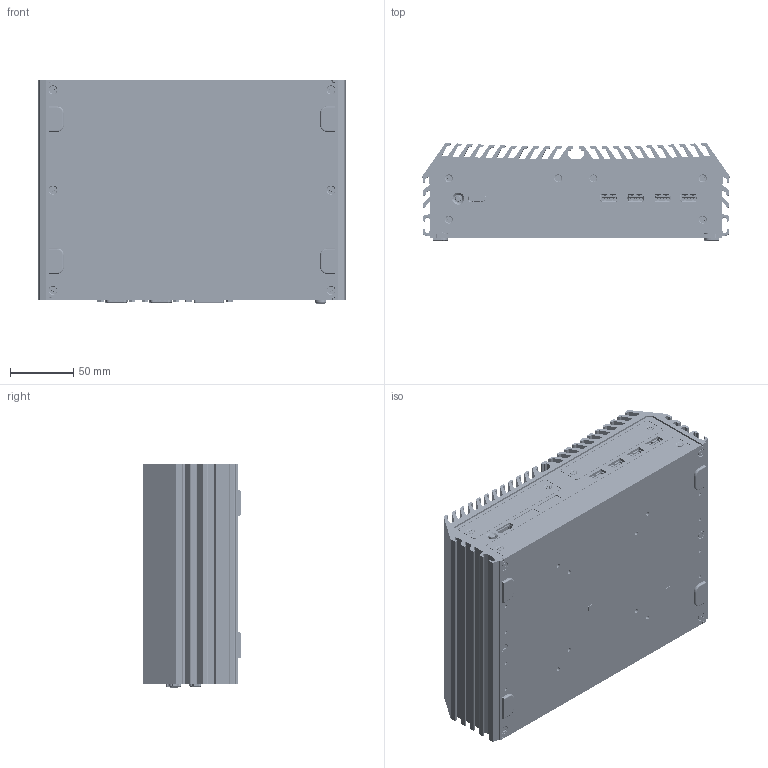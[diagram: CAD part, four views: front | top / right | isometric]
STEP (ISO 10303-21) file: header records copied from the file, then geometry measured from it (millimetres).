
FILE_DESCRIPTION (( 'STEP AP203' ), '1' );
FILE_NAME ('DX-1200_20220914.STEP', '2022-09-14T03:06:06', ( '' ), ( '' ), 'SwSTEP 2.0', 'SolidWorks 2014', '' );
FILE_SCHEMA (( 'CONFIG_CONTROL_DESIGN' ));
Length unit declared in the file: millimetre
Products named in the file (28): Top Cover; Rubber Foot(M4-RUFT0100001); WHDM-19FLBSDR; Terminal Block_ECH350R-02P(23-D0341500020); Top Cover(M1-408100006300); Symbol_Panel(M0-ZZZZ5C3003); Main Board; Audio Jack_雙層_T-A032134001(23-D0262300090); Bottom Cover(M1-408100011100); DX-1200_20220914; Copper Stud_S38400B25N01(M3-COSD6L00000); D-SUB 9_雙層_D20H1P1PA112A111N2(23-D0101100181); Front Bezel(M1-408110024100); F頭_M3x5(T10)(120)_黑(M3-N103052230); Terminal Block_ECH350R-04P(23-D0341500040); Rear Bezel(M1-408100031200); F頭_M3X8(T10)(90)_黑(M3-N103082260); DVI-1-H-RISE(23-D0092300293); Front Matching Bezel(CNC)(M1-408100081220); F頭_M3x18(T10)(120)+溝槽_黑(M3-1103182270); RJ45+USB3.0x2_三層_JFM38U1B_B313_4F(23-D0202300320); Small Matching Bezel(M1-408100081200); P頭_M5x8(十字)(太陽華司)(M3-SCREAB00002) ; DC_IN1_5EHDRM-03P_8(23-D0341500030); DP1_Displayport_(23-D0242300200); Hole_Plug,MHD-7(M4-RUBR0100000); USB3.0_SMT_122-0921NA0504(23-S0142300090); PWR_BTN_TC003
Assembly tree (62 placements, depth 3):
  DX-1200_20220914
    Top Cover(M1-408100006300)
      Top Cover
    Bottom Cover(M1-408100011100)
    Front Bezel(M1-408110024100)
    Rear Bezel(M1-408100031200)
    Front Matching Bezel(CNC)(M1-408100081220)
    Small Matching Bezel(M1-408100081200)  x4
    Main Board
      DP1_Displayport_(23-D0242300200)
      PWR_BTN_TC003
      Terminal Block_ECH350R-02P(23-D0341500020)
      Audio Jack_雙層_T-A032134001(23-D0262300090)
      D-SUB 9_雙層_D20H1P1PA112A111N2(23-D0101100181)  x2
      Terminal Block_ECH350R-04P(23-D0341500040)
      DVI-1-H-RISE(23-D0092300293)
      RJ45+USB3.0x2_三層_JFM38U1B_B313_4F(23-D0202300320)  x2
      DC_IN1_5EHDRM-03P_8(23-D0341500030)
      USB3.0_SMT_122-0921NA0504(23-S0142300090)  x4
      WHDM-19FLBSDR
    Copper Stud_S38400B25N01(M3-COSD6L00000)  x10
    F頭_M3x5(T10)(120)_黑(M3-N103052230)  x8
    F頭_M3X8(T10)(90)_黑(M3-N103082260)  x6
    F頭_M3x18(T10)(120)+溝槽_黑(M3-1103182270)  x2
    P頭_M5x8(十字)(太陽華司)(M3-SCREAB00002) 
    Hole_Plug,MHD-7(M4-RUBR0100000)  x3
    Rubber Foot(M4-RUFT0100001)  x4
    Symbol_Panel(M0-ZZZZ5C3003)
Bounding box: 242.18 x 77.23 x 176 mm (x, y, z)
Volume: 786415.3 mm3; surface area: 510254.7 mm2
Topology: 99 solids, 270 shells, 25305 faces, 71202 edges, 46033 vertices
Faces by surface type: plane 15895, cylinder 7353, bspline 1464, cone 395, torus 195, sphere 3
Entity records: 562264 total; most frequent: CARTESIAN_POINT 161400, ORIENTED_EDGE 87996, DIRECTION 74914, EDGE_CURVE 44111, VECTOR 31506, LINE 31506, VERTEX_POINT 28579, AXIS2_PLACEMENT_3D 21704
